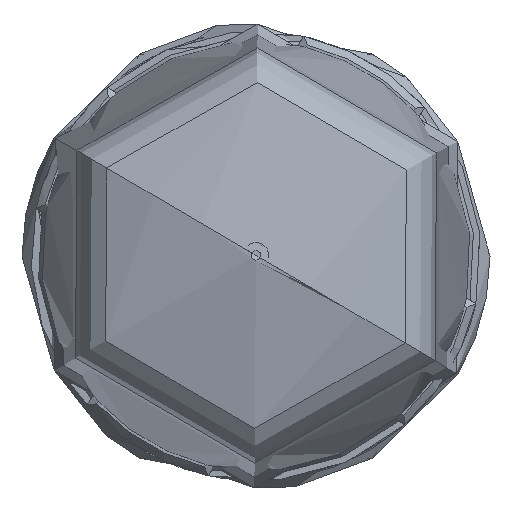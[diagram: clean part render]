
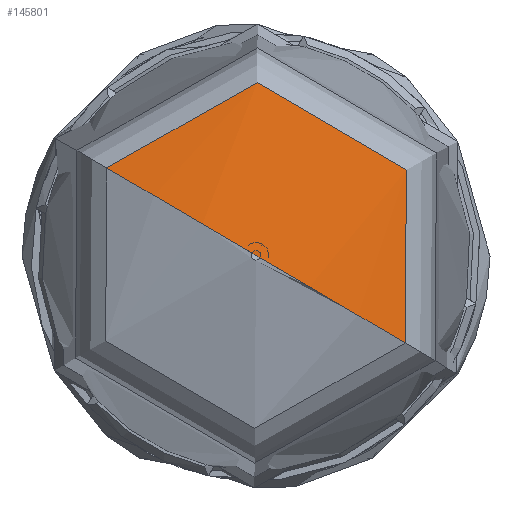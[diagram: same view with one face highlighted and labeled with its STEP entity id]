
A CAD part, top view. The second image highlights one B-rep face of the part: STEP entity #145801.
In plain terms, the highlighted spherical face has radius 200 mm.
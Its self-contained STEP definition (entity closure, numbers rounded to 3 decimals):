
#45085=CARTESIAN_POINT('',(0.,0.,126.615));
#45086=DIRECTION('',(0.,0.,-1.));
#45087=DIRECTION('',(-0.863,0.506,0.));
#45088=AXIS2_PLACEMENT_3D('',#45085,#45086,#45087);
#45090=CARTESIAN_POINT('',(0.,0.,
137.99));
#45091=DIRECTION('',(0.,0.,-1.));
#45092=DIRECTION('',(-0.863,0.506,0.));
#45093=AXIS2_PLACEMENT_3D('',#45090,#45091,#45092);
#45110=CARTESIAN_POINT('',(0.,0.,-62.));
#45111=DIRECTION('',(0.506,0.863,0.));
#45112=DIRECTION('',(0.009,-0.005,1.));
#45113=AXIS2_PLACEMENT_3D('',#45110,#45111,#45112);
#45120=CARTESIAN_POINT('',(0.,0.,-62.));
#45121=DIRECTION('',(0.506,0.863,0.));
#45122=DIRECTION('',(-0.287,0.168,0.943));
#45123=AXIS2_PLACEMENT_3D('',#45120,#45121,#45122);
#58751=CARTESIAN_POINT('',(57.373,-33.658,
126.615));
#58752=VERTEX_POINT('',#58751);
#58753=CARTESIAN_POINT('',(-57.373,33.658,
126.615));
#58754=VERTEX_POINT('',#58753);
#58755=CARTESIAN_POINT('',(-1.719,1.008,
137.99));
#58756=CARTESIAN_POINT('',(1.719,-1.008,
137.99));
#58757=VERTEX_POINT('',#58755);
#58758=VERTEX_POINT('',#58756);
#145787=CARTESIAN_POINT('',(0.,0.,-62.));
#145788=DIRECTION('',(0.,0.,1.));
#145789=DIRECTION('',(0.863,-0.506,0.));
#145790=AXIS2_PLACEMENT_3D('',#145787,#145788,#145789);
#145791=SPHERICAL_SURFACE('',#145790,200.);
#145793=ORIENTED_EDGE('',*,*,#145792,.F.);
#145795=ORIENTED_EDGE('',*,*,#145794,.F.);
#145796=ORIENTED_EDGE('',*,*,#145780,.T.);
#145798=ORIENTED_EDGE('',*,*,#145797,.F.);
#145799=EDGE_LOOP('',(#145793,#145795,#145796,#145798));
#145800=FACE_OUTER_BOUND('',#145799,.F.);
#145801=ADVANCED_FACE('',(#145800),#145791,.T.);
#45089=CIRCLE('',#45088,66.517);
#45094=CIRCLE('',#45093,1.993);
#45114=CIRCLE('',#45113,200.);
#45124=CIRCLE('',#45123,200.);
#145780=EDGE_CURVE('',#58754,#58752,#45089,.T.);
#145792=EDGE_CURVE('',#58757,#58758,#45094,.T.);
#145794=EDGE_CURVE('',#58754,#58757,#45124,.T.);
#145797=EDGE_CURVE('',#58758,#58752,#45114,.T.);
